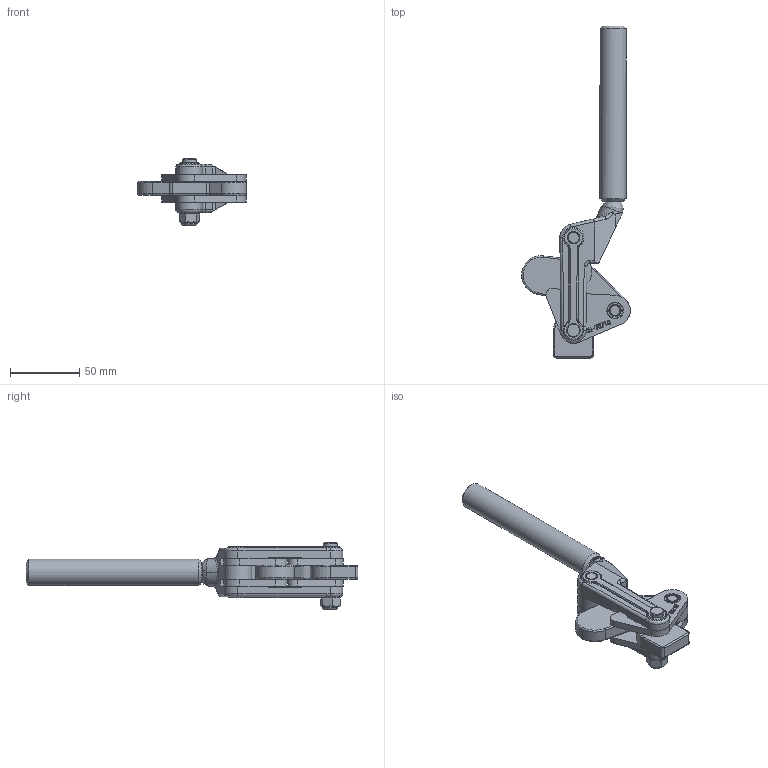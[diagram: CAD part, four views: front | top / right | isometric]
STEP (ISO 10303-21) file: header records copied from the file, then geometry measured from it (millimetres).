
FILE_DESCRIPTION(/* description */ ('STEP AP203'),/* implementation_level */ '2;1');
FILE_NAME(/* name */ 'D:\Vault_2016\Projekty\NASZ KATALOG\CLAMPTEK\STRONA\Heavy duty weldables\CH-70710\CH-70710_ZAMKNIETY.stp',/* time_stamp */ '2019-01-15T15:13:01+01:00',/* author */ ('CADENGINEERING4'),/* organization */ ('Î¢ÈíÖÐ¹ú'),/* preprocessor_version */ 'ST-DEVELOPER v17.2',/* originating_system */ 'Autodesk Inventor 2019',/* authorisation */ '');
FILE_SCHEMA (('AUTOMOTIVE_DESIGN { 1 0 10303 214 3 1 1 }'));
Length unit declared in the file: millimetre
Products named in the file (11): CH-70710_ZAMKNIETY; 70710-03_Ä¬ÈÏ; 70720-07_Ä¬ÈÏ; 70710-04_Ä¬ÈÏ; 70720-11_Ä¬ÈÏ; 70720-08_Ä¬ÈÏ; 70720-10_Ä¬ÈÏ; 70710-01_Ä¬ÈÏ; 70710-02_Ä¬ÈÏ; 70720-03_Ä¬ÈÏ; 70720-06_Ä¬ÈÏ
Assembly tree (20 placements, depth 2):
  CH-70710_ZAMKNIETY
    70710-03_Ä¬ÈÏ
    70720-07_Ä¬ÈÏ
    70720-06_Ä¬ÈÏ  x8
    70720-08_Ä¬ÈÏ  x2
    70710-04_Ä¬ÈÏ
    70720-11_Ä¬ÈÏ
    70720-10_Ä¬ÈÏ
    70710-01_Ä¬ÈÏ
    70710-02_Ä¬ÈÏ  x2
    70720-03_Ä¬ÈÏ  x2
Bounding box: 78.55 x 240.21 x 48 mm (x, y, z)
Volume: 115131.2 mm3; surface area: 58042.9 mm2
Topology: 21 solids, 21 shells, 2560 faces, 6892 edges, 4602 vertices
Faces by surface type: plane 1641, cylinder 474, bspline 350, cone 54, torus 41
Full cylindrical faces by diameter (mm): 2.648 x2, 3.28 x2, 6.5 x4, 7 x1, 8 x20, 10 x1, 11 x1, 12 x8, 12.1 x8, 15 x1, 19 x1
Entity records: 66800 total; most frequent: CARTESIAN_POINT 22247, ORIENTED_EDGE 9458, DIRECTION 8896, EDGE_CURVE 4729, VERTEX_POINT 3146, AXIS2_PLACEMENT_3D 2989, LINE 2918, VECTOR 2918
